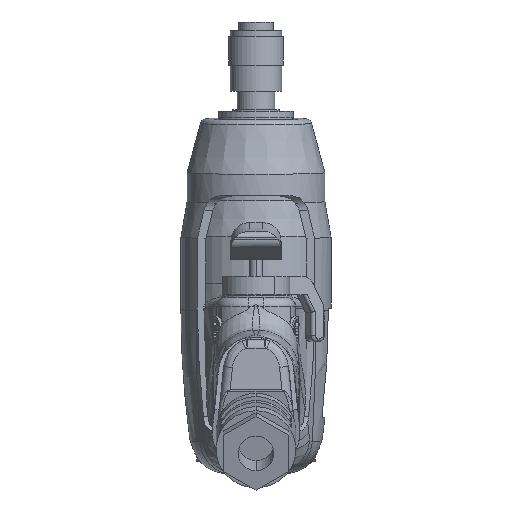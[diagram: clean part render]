
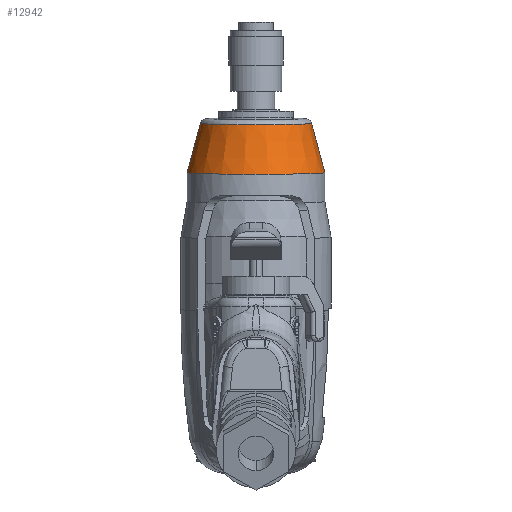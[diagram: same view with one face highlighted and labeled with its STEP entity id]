
A CAD part, front view. The second image highlights one B-rep face of the part: STEP entity #12942.
In plain terms, the highlighted conical face has half-angle 15 degrees and reference radius 22 mm.
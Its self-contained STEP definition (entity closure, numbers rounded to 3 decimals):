
#11913 = VERTEX_POINT ( 'NONE', #72115 ) ;
#11915 = EDGE_CURVE ( 'NONE', #11929, #11913, #72113, .T. ) ;
#11929 = VERTEX_POINT ( 'NONE', #72142 ) ;
#11947 = EDGE_CURVE ( 'NONE', #11929, #11974, #72162, .T. ) ;
#11950 = VERTEX_POINT ( 'NONE', #72208 ) ;
#11952 = EDGE_CURVE ( 'NONE', #11913, #11950, #72207, .T. ) ;
#11974 = VERTEX_POINT ( 'NONE', #72215 ) ;
#12941 = EDGE_CURVE ( 'NONE', #11950, #11974, #84732, .T. ) ;
#12942 = ADVANCED_FACE ( 'NONE', ( #84792 ), #84791, .T. ) ;
#12943 = EDGE_LOOP ( 'NONE', ( #12944, #12945, #12946, #12947 ) ) ;
#12944 = ORIENTED_EDGE ( 'NONE', *, *, #11947, .F. ) ;
#12945 = ORIENTED_EDGE ( 'NONE', *, *, #11915, .T. ) ;
#12946 = ORIENTED_EDGE ( 'NONE', *, *, #11952, .T. ) ;
#12947 = ORIENTED_EDGE ( 'NONE', *, *, #12941, .T. ) ;
#72109 = DIRECTION ( 'NONE',  ( 1., 0., 0. ) ) ;
#72110 = DIRECTION ( 'NONE',  ( 0., 0., -1. ) ) ;
#72111 = CARTESIAN_POINT ( 'NONE',  ( 0., 0., -21.682 ) ) ;
#72112 = AXIS2_PLACEMENT_3D ( 'NONE', #72111, #72110, #72109 ) ;
#72113 = CIRCLE ( 'NONE', #72112, 17.779 ) ;
#72115 = CARTESIAN_POINT ( 'NONE',  ( -17.779, 0., -21.682 ) ) ;
#72142 = CARTESIAN_POINT ( 'NONE',  ( 17.779, 0., -21.682 ) ) ;
#72159 = DIRECTION ( 'NONE',  ( 0.259, 0., -0.966 ) ) ;
#72160 = VECTOR ( 'NONE', #72159, 1000. ) ;
#72161 = CARTESIAN_POINT ( 'NONE',  ( 22., 0., -37.437 ) ) ;
#72162 = LINE ( 'NONE', #72161, #72160 ) ;
#72204 = DIRECTION ( 'NONE',  ( -0.259, 0., -0.966 ) ) ;
#72205 = VECTOR ( 'NONE', #72204, 1000. ) ;
#72206 = CARTESIAN_POINT ( 'NONE',  ( -22., 0., -37.437 ) ) ;
#72207 = LINE ( 'NONE', #72206, #72205 ) ;
#72208 = CARTESIAN_POINT ( 'NONE',  ( -22., 0., -37.437 ) ) ;
#72215 = CARTESIAN_POINT ( 'NONE',  ( 22., 0., -37.437 ) ) ;
#84732 = CIRCLE ( 'NONE', #84796, 22. ) ;
#84786 = DIRECTION ( 'NONE',  ( -1., 0., 0. ) ) ;
#84787 = DIRECTION ( 'NONE',  ( 0., 0., -1. ) ) ;
#84788 = CARTESIAN_POINT ( 'NONE',  ( 0., 0., -37.437 ) ) ;
#84789 = AXIS2_PLACEMENT_3D ( 'NONE', #84788, #84787, #84786 ) ;
#84791 = CONICAL_SURFACE ( 'NONE', #84789, 22., 0.262 ) ;
#84792 = FACE_OUTER_BOUND ( 'NONE', #12943, .T. ) ;
#84793 = DIRECTION ( 'NONE',  ( 1., 0., 0. ) ) ;
#84794 = DIRECTION ( 'NONE',  ( 0., 0., 1. ) ) ;
#84795 = CARTESIAN_POINT ( 'NONE',  ( 0., 0., -37.437 ) ) ;
#84796 = AXIS2_PLACEMENT_3D ( 'NONE', #84795, #84794, #84793 ) ;
